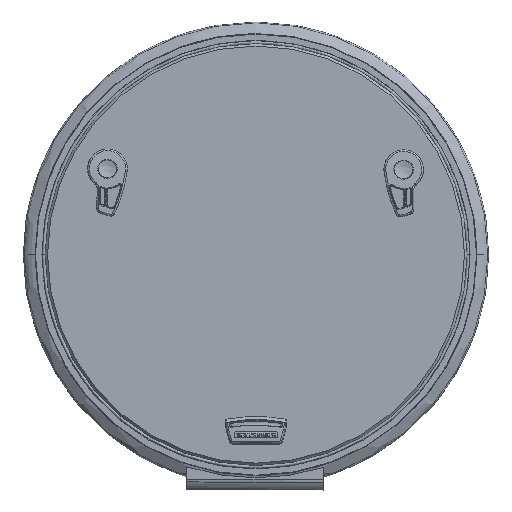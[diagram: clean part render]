
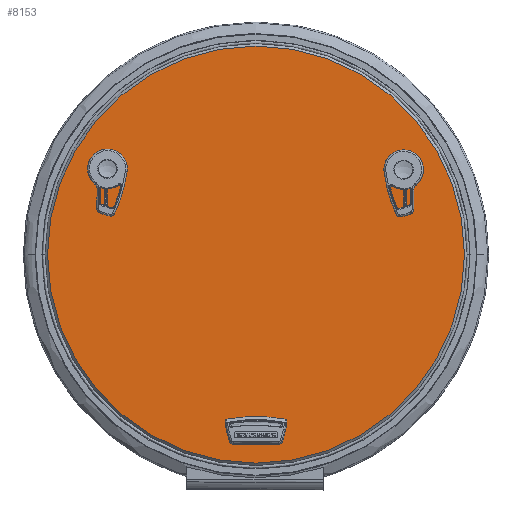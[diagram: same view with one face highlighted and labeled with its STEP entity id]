
A CAD part, top view. The second image highlights one B-rep face of the part: STEP entity #8153.
In plain terms, the highlighted planar face has unit normal (0, 0, 1).
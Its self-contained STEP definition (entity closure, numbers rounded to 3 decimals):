
#7640=CARTESIAN_POINT('',(0.,0.,10.));
#7641=DIRECTION('',(0.,0.,-1.));
#7642=DIRECTION('',(1.,0.,0.));
#7643=AXIS2_PLACEMENT_3D('',#7640,#7641,#7642);
#7645=CARTESIAN_POINT('',(0.,0.,10.));
#7646=DIRECTION('',(0.,0.,-1.));
#7647=DIRECTION('',(-1.,0.,0.));
#7648=AXIS2_PLACEMENT_3D('',#7645,#7646,#7647);
#7650=CARTESIAN_POINT('',(21.55,-226.5,10.));
#7651=DIRECTION('',(0.,0.,1.));
#7652=DIRECTION('',(0.,-1.,0.));
#7653=AXIS2_PLACEMENT_3D('',#7650,#7651,#7652);
#7655=DIRECTION('',(-1.,0.,0.));
#7656=VECTOR('',#7655,43.1);
#7657=CARTESIAN_POINT('',(21.55,-221.,10.));
#7658=LINE('',#7657,#7656);
#7659=CARTESIAN_POINT('',(-21.55,-226.5,10.));
#7660=DIRECTION('',(0.,0.,1.));
#7661=DIRECTION('',(0.,1.,0.));
#7662=AXIS2_PLACEMENT_3D('',#7659,#7660,#7661);
#7664=DIRECTION('',(1.,0.,0.));
#7665=VECTOR('',#7664,43.1);
#7666=CARTESIAN_POINT('',(-21.55,-232.,10.));
#7667=LINE('',#7666,#7665);
#7668=DIRECTION('',(-0.866,0.5,0.));
#7669=VECTOR('',#7668,5.2);
#7670=CARTESIAN_POINT('',(183.83,97.703,10.));
#7671=LINE('',#7670,#7669);
#7672=CARTESIAN_POINT('',(186.33,102.033,10.));
#7673=DIRECTION('',(0.,0.,-1.));
#7674=DIRECTION('',(0.866,-0.5,0.));
#7675=AXIS2_PLACEMENT_3D('',#7672,#7673,#7674);
#7677=DIRECTION('',(-0.5,-0.866,0.));
#7678=VECTOR('',#7677,10.2);
#7679=CARTESIAN_POINT('',(195.76,108.367,10.));
#7680=LINE('',#7679,#7678);
#7681=CARTESIAN_POINT('',(191.43,110.867,10.));
#7682=DIRECTION('',(0.,0.,-1.));
#7683=DIRECTION('',(0.5,0.866,0.));
#7684=AXIS2_PLACEMENT_3D('',#7681,#7682,#7683);
#7686=DIRECTION('',(0.866,-0.5,0.));
#7687=VECTOR('',#7686,5.2);
#7688=CARTESIAN_POINT('',(189.427,117.797,10.));
#7689=LINE('',#7688,#7687);
#7690=CARTESIAN_POINT('',(186.927,113.467,10.));
#7691=DIRECTION('',(0.,0.,-1.));
#7692=DIRECTION('',(-0.866,0.5,0.));
#7693=AXIS2_PLACEMENT_3D('',#7690,#7691,#7692);
#7695=DIRECTION('',(0.5,0.866,0.));
#7696=VECTOR('',#7695,10.2);
#7697=CARTESIAN_POINT('',(177.497,107.133,10.));
#7698=LINE('',#7697,#7696);
#7699=CARTESIAN_POINT('',(181.827,104.633,10.));
#7700=DIRECTION('',(0.,0.,-1.));
#7701=DIRECTION('',(-0.5,-0.866,0.));
#7702=AXIS2_PLACEMENT_3D('',#7699,#7700,#7701);
#7704=CARTESIAN_POINT('',(-186.33,102.033,10.));
#7705=DIRECTION('',(0.,0.,1.));
#7706=DIRECTION('',(-0.866,-0.5,0.));
#7707=AXIS2_PLACEMENT_3D('',#7704,#7705,#7706);
#7709=DIRECTION('',(0.866,0.5,0.));
#7710=VECTOR('',#7709,5.2);
#7711=CARTESIAN_POINT('',(-183.83,97.703,10.));
#7712=LINE('',#7711,#7710);
#7713=CARTESIAN_POINT('',(-181.827,104.633,10.));
#7714=DIRECTION('',(0.,0.,1.));
#7715=DIRECTION('',(0.5,-0.866,0.));
#7716=AXIS2_PLACEMENT_3D('',#7713,#7714,#7715);
#7718=DIRECTION('',(-0.5,0.866,0.));
#7719=VECTOR('',#7718,10.2);
#7720=CARTESIAN_POINT('',(-177.497,107.133,10.));
#7721=LINE('',#7720,#7719);
#7722=CARTESIAN_POINT('',(-186.927,113.467,10.));
#7723=DIRECTION('',(0.,0.,1.));
#7724=DIRECTION('',(0.866,0.5,0.));
#7725=AXIS2_PLACEMENT_3D('',#7722,#7723,#7724);
#7727=DIRECTION('',(-0.866,-0.5,0.));
#7728=VECTOR('',#7727,5.2);
#7729=CARTESIAN_POINT('',(-189.427,117.797,10.));
#7730=LINE('',#7729,#7728);
#7731=CARTESIAN_POINT('',(-191.43,110.867,10.));
#7732=DIRECTION('',(0.,0.,1.));
#7733=DIRECTION('',(-0.5,0.866,0.));
#7734=AXIS2_PLACEMENT_3D('',#7731,#7732,#7733);
#7736=DIRECTION('',(0.5,-0.866,0.));
#7737=VECTOR('',#7736,10.2);
#7738=CARTESIAN_POINT('',(-195.76,108.367,10.));
#7739=LINE('',#7738,#7737);
#7844=CARTESIAN_POINT('',(263.5,0.,10.));
#7845=CARTESIAN_POINT('',(-263.5,0.,10.));
#7846=VERTEX_POINT('',#7844);
#7847=VERTEX_POINT('',#7845);
#7860=CARTESIAN_POINT('',(21.55,-232.,10.));
#7861=CARTESIAN_POINT('',(21.55,-221.,10.));
#7862=VERTEX_POINT('',#7860);
#7863=VERTEX_POINT('',#7861);
#7864=CARTESIAN_POINT('',(-21.55,-221.,10.));
#7865=VERTEX_POINT('',#7864);
#7866=CARTESIAN_POINT('',(-21.55,-232.,10.));
#7867=VERTEX_POINT('',#7866);
#7888=CARTESIAN_POINT('',(183.83,97.703,10.));
#7889=CARTESIAN_POINT('',(179.327,100.303,10.));
#7890=VERTEX_POINT('',#7888);
#7891=VERTEX_POINT('',#7889);
#7892=CARTESIAN_POINT('',(177.497,107.133,10.));
#7893=CARTESIAN_POINT('',(182.597,115.967,10.));
#7894=VERTEX_POINT('',#7892);
#7895=VERTEX_POINT('',#7893);
#7896=CARTESIAN_POINT('',(189.427,117.797,10.));
#7897=CARTESIAN_POINT('',(193.93,115.197,10.));
#7898=VERTEX_POINT('',#7896);
#7899=VERTEX_POINT('',#7897);
#7900=CARTESIAN_POINT('',(195.76,108.367,10.));
#7901=CARTESIAN_POINT('',(190.66,99.533,10.));
#7902=VERTEX_POINT('',#7900);
#7903=VERTEX_POINT('',#7901);
#7920=CARTESIAN_POINT('',(-190.66,99.533,10.));
#7921=CARTESIAN_POINT('',(-183.83,97.703,10.));
#7922=VERTEX_POINT('',#7920);
#7923=VERTEX_POINT('',#7921);
#7924=CARTESIAN_POINT('',(-179.327,100.303,10.));
#7925=VERTEX_POINT('',#7924);
#7926=CARTESIAN_POINT('',(-177.497,107.133,10.));
#7927=VERTEX_POINT('',#7926);
#7928=CARTESIAN_POINT('',(-182.597,115.967,10.));
#7929=VERTEX_POINT('',#7928);
#7930=CARTESIAN_POINT('',(-189.427,117.797,10.));
#7931=VERTEX_POINT('',#7930);
#7932=CARTESIAN_POINT('',(-193.93,115.197,10.));
#7933=VERTEX_POINT('',#7932);
#7934=CARTESIAN_POINT('',(-195.76,108.367,10.));
#7935=VERTEX_POINT('',#7934);
#8097=CARTESIAN_POINT('',(0.,0.,10.));
#8098=DIRECTION('',(0.,0.,1.));
#8099=DIRECTION('',(-1.,0.,0.));
#8100=AXIS2_PLACEMENT_3D('',#8097,#8098,#8099);
#8101=PLANE('',#8100);
#8102=ORIENTED_EDGE('',*,*,#8087,.T.);
#8104=ORIENTED_EDGE('',*,*,#8103,.T.);
#8105=EDGE_LOOP('',(#8102,#8104));
#8106=FACE_OUTER_BOUND('',#8105,.F.);
#8108=ORIENTED_EDGE('',*,*,#8107,.T.);
#8110=ORIENTED_EDGE('',*,*,#8109,.T.);
#8112=ORIENTED_EDGE('',*,*,#8111,.T.);
#8114=ORIENTED_EDGE('',*,*,#8113,.T.);
#8115=EDGE_LOOP('',(#8108,#8110,#8112,#8114));
#8116=FACE_BOUND('',#8115,.F.);
#8118=ORIENTED_EDGE('',*,*,#8117,.F.);
#8120=ORIENTED_EDGE('',*,*,#8119,.F.);
#8122=ORIENTED_EDGE('',*,*,#8121,.F.);
#8124=ORIENTED_EDGE('',*,*,#8123,.F.);
#8126=ORIENTED_EDGE('',*,*,#8125,.F.);
#8128=ORIENTED_EDGE('',*,*,#8127,.F.);
#8130=ORIENTED_EDGE('',*,*,#8129,.F.);
#8132=ORIENTED_EDGE('',*,*,#8131,.F.);
#8133=EDGE_LOOP('',(#8118,#8120,#8122,#8124,#8126,#8128,#8130,#8132));
#8134=FACE_BOUND('',#8133,.F.);
#8136=ORIENTED_EDGE('',*,*,#8135,.T.);
#8138=ORIENTED_EDGE('',*,*,#8137,.T.);
#8140=ORIENTED_EDGE('',*,*,#8139,.T.);
#8142=ORIENTED_EDGE('',*,*,#8141,.T.);
#8144=ORIENTED_EDGE('',*,*,#8143,.T.);
#8146=ORIENTED_EDGE('',*,*,#8145,.T.);
#8148=ORIENTED_EDGE('',*,*,#8147,.T.);
#8150=ORIENTED_EDGE('',*,*,#8149,.T.);
#8151=EDGE_LOOP('',(#8136,#8138,#8140,#8142,#8144,#8146,#8148,#8150));
#8152=FACE_BOUND('',#8151,.F.);
#8153=ADVANCED_FACE('',(#8106,#8116,#8134,#8152),#8101,.T.);
#7644=CIRCLE('',#7643,263.5);
#7649=CIRCLE('',#7648,263.5);
#7654=CIRCLE('',#7653,5.5);
#7663=CIRCLE('',#7662,5.5);
#7676=CIRCLE('',#7675,5.);
#7685=CIRCLE('',#7684,5.);
#7694=CIRCLE('',#7693,5.);
#7703=CIRCLE('',#7702,5.);
#7708=CIRCLE('',#7707,5.);
#7717=CIRCLE('',#7716,5.);
#7726=CIRCLE('',#7725,5.);
#7735=CIRCLE('',#7734,5.);
#8087=EDGE_CURVE('',#7846,#7847,#7644,.T.);
#8103=EDGE_CURVE('',#7847,#7846,#7649,.T.);
#8107=EDGE_CURVE('',#7862,#7863,#7654,.T.);
#8109=EDGE_CURVE('',#7863,#7865,#7658,.T.);
#8111=EDGE_CURVE('',#7865,#7867,#7663,.T.);
#8113=EDGE_CURVE('',#7867,#7862,#7667,.T.);
#8117=EDGE_CURVE('',#7890,#7891,#7671,.T.);
#8119=EDGE_CURVE('',#7903,#7890,#7676,.T.);
#8121=EDGE_CURVE('',#7902,#7903,#7680,.T.);
#8123=EDGE_CURVE('',#7899,#7902,#7685,.T.);
#8125=EDGE_CURVE('',#7898,#7899,#7689,.T.);
#8127=EDGE_CURVE('',#7895,#7898,#7694,.T.);
#8129=EDGE_CURVE('',#7894,#7895,#7698,.T.);
#8131=EDGE_CURVE('',#7891,#7894,#7703,.T.);
#8135=EDGE_CURVE('',#7922,#7923,#7708,.T.);
#8137=EDGE_CURVE('',#7923,#7925,#7712,.T.);
#8139=EDGE_CURVE('',#7925,#7927,#7717,.T.);
#8141=EDGE_CURVE('',#7927,#7929,#7721,.T.);
#8143=EDGE_CURVE('',#7929,#7931,#7726,.T.);
#8145=EDGE_CURVE('',#7931,#7933,#7730,.T.);
#8147=EDGE_CURVE('',#7933,#7935,#7735,.T.);
#8149=EDGE_CURVE('',#7935,#7922,#7739,.T.);
